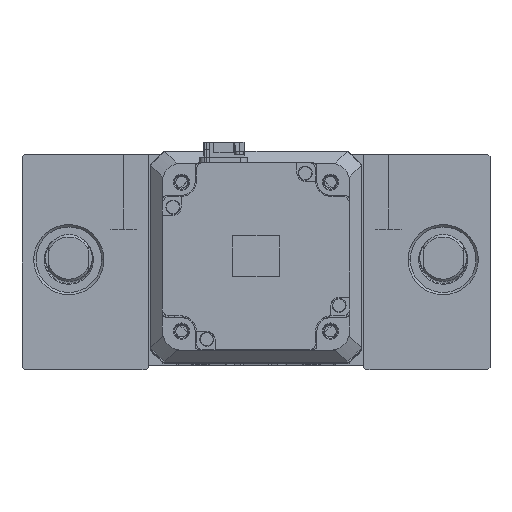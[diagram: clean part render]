
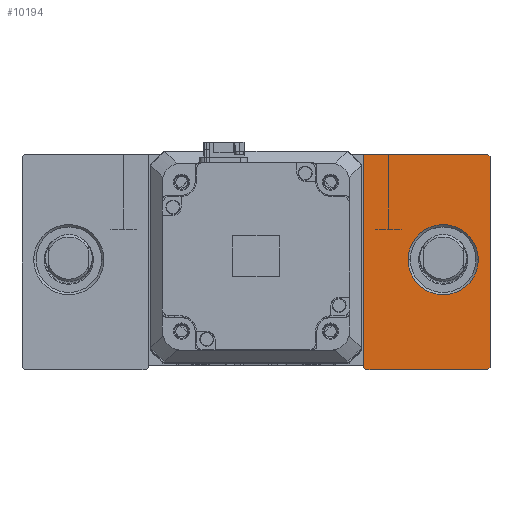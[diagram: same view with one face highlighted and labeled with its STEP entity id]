
A CAD part, top view. The second image highlights one B-rep face of the part: STEP entity #10194.
In plain terms, the highlighted planar face has unit normal (0, 0, 1).
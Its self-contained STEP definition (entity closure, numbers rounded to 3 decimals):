
#301 = DIRECTION ( 'NONE',  ( -0.707, 0.707, 0. ) ) ;
#348 = DIRECTION ( 'NONE',  ( 0.707, 0.707, 0. ) ) ;
#488 = EDGE_CURVE ( 'NONE', #27787, #36206, #39188, .T. ) ;
#1115 = ORIENTED_EDGE ( 'NONE', *, *, #25647, .T. ) ;
#3506 = VERTEX_POINT ( 'NONE', #47067 ) ;
#3913 = EDGE_CURVE ( 'NONE', #3506, #40595, #19519, .T. ) ;
#4085 = DIRECTION ( 'NONE',  ( 0., 0., -1. ) ) ;
#4163 = DIRECTION ( 'NONE',  ( 0., 0., 1. ) ) ;
#4293 = LINE ( 'NONE', #35140, #15670 ) ;
#5350 = VERTEX_POINT ( 'NONE', #49222 ) ;
#5624 = EDGE_LOOP ( 'NONE', ( #15717, #5822, #16492, #51562, #52076, #1115, #11112 ) ) ;
#5822 = ORIENTED_EDGE ( 'NONE', *, *, #46993, .T. ) ;
#7055 = EDGE_CURVE ( 'NONE', #19486, #51150, #4293, .T. ) ;
#8053 = CARTESIAN_POINT ( 'NONE',  ( 46., 45., 35. ) ) ;
#9230 = VECTOR ( 'NONE', #348, 1000. ) ;
#9339 = CARTESIAN_POINT ( 'NONE',  ( 46., -46., 35. ) ) ;
#10194 = ADVANCED_FACE ( 'NONE', ( #21250, #53999 ), #29547, .T. ) ;
#11112 = ORIENTED_EDGE ( 'NONE', *, *, #33156, .T. ) ;
#11809 = DIRECTION ( 'NONE',  ( 0., 0., -1. ) ) ;
#13019 = VECTOR ( 'NONE', #33610, 1000. ) ;
#13297 = EDGE_CURVE ( 'NONE', #40595, #3506, #24833, .T. ) ;
#14787 = ORIENTED_EDGE ( 'NONE', *, *, #3913, .T. ) ;
#15670 = VECTOR ( 'NONE', #17973, 1000. ) ;
#15717 = ORIENTED_EDGE ( 'NONE', *, *, #25437, .T. ) ;
#16492 = ORIENTED_EDGE ( 'NONE', *, *, #7055, .T. ) ;
#16835 = CARTESIAN_POINT ( 'NONE',  ( 0., 0., 35. ) ) ;
#17973 = DIRECTION ( 'NONE',  ( 1., 0., 0. ) ) ;
#19486 = VERTEX_POINT ( 'NONE', #21039 ) ;
#19519 = CIRCLE ( 'NONE', #54615, 15. ) ;
#20064 = LINE ( 'NONE', #32800, #41410 ) ;
#21039 = CARTESIAN_POINT ( 'NONE',  ( 47., -47., 35. ) ) ;
#21250 = FACE_BOUND ( 'NONE', #35423, .T. ) ;
#24789 = DIRECTION ( 'NONE',  ( 0., 1., 0. ) ) ;
#24833 = CIRCLE ( 'NONE', #36067, 15. ) ;
#25437 = EDGE_CURVE ( 'NONE', #27702, #33306, #20064, .T. ) ;
#25647 = EDGE_CURVE ( 'NONE', #36206, #5350, #43376, .T. ) ;
#25685 = LINE ( 'NONE', #8053, #13019 ) ;
#25822 = CARTESIAN_POINT ( 'NONE',  ( 72., 72., 35. ) ) ;
#25878 = CARTESIAN_POINT ( 'NONE',  ( 73., -73., 35. ) ) ;
#26361 = CARTESIAN_POINT ( 'NONE',  ( 100., 44., 35. ) ) ;
#26501 = VECTOR ( 'NONE', #24789, 1000. ) ;
#27702 = VERTEX_POINT ( 'NONE', #33146 ) ;
#27787 = VERTEX_POINT ( 'NONE', #29415 ) ;
#29415 = CARTESIAN_POINT ( 'NONE',  ( 100., -46., 35. ) ) ;
#29547 = PLANE ( 'NONE',  #31646 ) ;
#29638 = CARTESIAN_POINT ( 'NONE',  ( 80., 0., 35. ) ) ;
#30572 = LINE ( 'NONE', #25878, #9230 ) ;
#31463 = EDGE_CURVE ( 'NONE', #51150, #27787, #30572, .T. ) ;
#31646 = AXIS2_PLACEMENT_3D ( 'NONE', #16835, #4163, #34006 ) ;
#32800 = CARTESIAN_POINT ( 'NONE',  ( 46., 45., 35. ) ) ;
#33146 = CARTESIAN_POINT ( 'NONE',  ( 46., 45., 35. ) ) ;
#33156 = EDGE_CURVE ( 'NONE', #5350, #27702, #25685, .T. ) ;
#33270 = VECTOR ( 'NONE', #45495, 1000. ) ;
#33306 = VERTEX_POINT ( 'NONE', #9339 ) ;
#33610 = DIRECTION ( 'NONE',  ( -1., 0., 0. ) ) ;
#33922 = DIRECTION ( 'NONE',  ( 1., 0., 0. ) ) ;
#34006 = DIRECTION ( 'NONE',  ( 1., 0., 0. ) ) ;
#34738 = VECTOR ( 'NONE', #301, 1000. ) ;
#35140 = CARTESIAN_POINT ( 'NONE',  ( 46., -47., 35. ) ) ;
#35423 = EDGE_LOOP ( 'NONE', ( #54316, #14787 ) ) ;
#36067 = AXIS2_PLACEMENT_3D ( 'NONE', #37342, #11809, #41646 ) ;
#36206 = VERTEX_POINT ( 'NONE', #26361 ) ;
#37342 = CARTESIAN_POINT ( 'NONE',  ( 80., 0., 35. ) ) ;
#39188 = LINE ( 'NONE', #54685, #26501 ) ;
#40595 = VERTEX_POINT ( 'NONE', #46799 ) ;
#41190 = CARTESIAN_POINT ( 'NONE',  ( 0., 0., 35. ) ) ;
#41410 = VECTOR ( 'NONE', #49944, 1000. ) ;
#41646 = DIRECTION ( 'NONE',  ( 1., 0., 0. ) ) ;
#43376 = LINE ( 'NONE', #25822, #34738 ) ;
#45495 = DIRECTION ( 'NONE',  ( 0.707, -0.707, 0. ) ) ;
#45919 = LINE ( 'NONE', #41190, #33270 ) ;
#46799 = CARTESIAN_POINT ( 'NONE',  ( 95., 0., 35. ) ) ;
#46810 = CARTESIAN_POINT ( 'NONE',  ( 99., -47., 35. ) ) ;
#46993 = EDGE_CURVE ( 'NONE', #33306, #19486, #45919, .T. ) ;
#47067 = CARTESIAN_POINT ( 'NONE',  ( 65., 0., 35. ) ) ;
#49222 = CARTESIAN_POINT ( 'NONE',  ( 99., 45., 35. ) ) ;
#49944 = DIRECTION ( 'NONE',  ( 0., -1., 0. ) ) ;
#51150 = VERTEX_POINT ( 'NONE', #46810 ) ;
#51562 = ORIENTED_EDGE ( 'NONE', *, *, #31463, .T. ) ;
#52076 = ORIENTED_EDGE ( 'NONE', *, *, #488, .T. ) ;
#53999 = FACE_OUTER_BOUND ( 'NONE', #5624, .T. ) ;
#54316 = ORIENTED_EDGE ( 'NONE', *, *, #13297, .T. ) ;
#54615 = AXIS2_PLACEMENT_3D ( 'NONE', #29638, #4085, #33922 ) ;
#54685 = CARTESIAN_POINT ( 'NONE',  ( 100., 45., 35. ) ) ;
